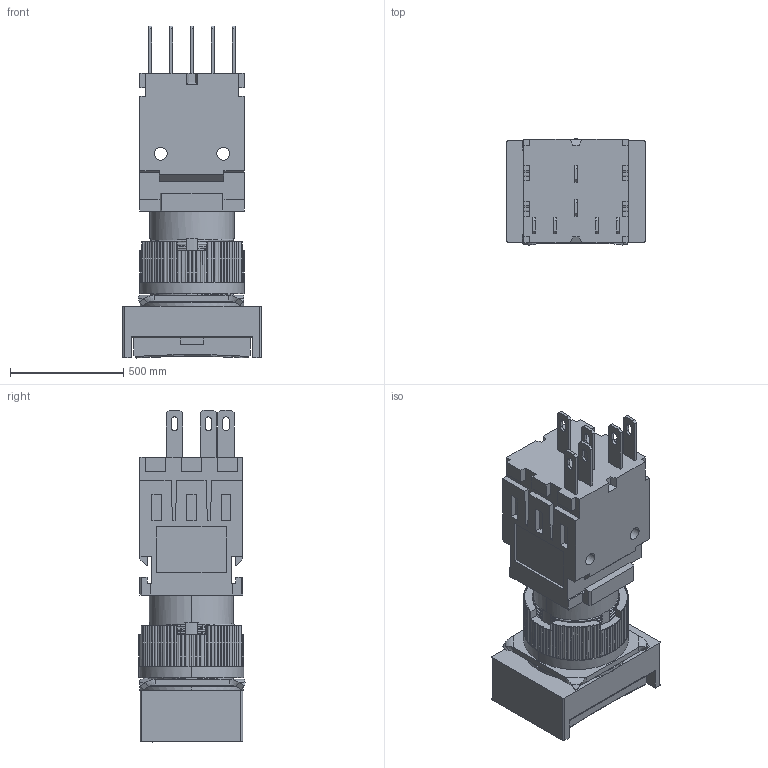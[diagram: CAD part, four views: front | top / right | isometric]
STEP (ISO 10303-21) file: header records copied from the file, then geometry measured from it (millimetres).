
FILE_DESCRIPTION((''),'2;1');
FILE_NAME('ASM003_ASM','2016-06-03T',('Administrator'),(''),'PRO/ENGINEER BY PARAMETRIC TECHNOLOGY CORPORATION, 2012360','PRO/ENGINEER BY PARAMETRIC TECHNOLOGY CORPORATION, 2012360','');
FILE_SCHEMA(('CONFIG_CONTROL_DESIGN'));
Length unit declared in the file: inch
Products named in the file (1): ASM003_ASM
Bounding box: 609.6 x 467.48 x 1463.04 mm (x, y, z)
Volume: 228543242.8 mm3; surface area: 5011137.1 mm2
Topology: 1 solids, 1 shells, 883 faces, 2404 edges, 1557 vertices
Faces by surface type: plane 427, cylinder 361, bspline 93, torus 2
Entity records: 39549 total; most frequent: CARTESIAN_POINT 17938, ORIENTED_EDGE 4808, DIRECTION 4067, EDGE_CURVE 2404, VERTEX_POINT 1557, AXIS2_PLACEMENT_3D 1388, VECTOR 1291, LINE 1291
